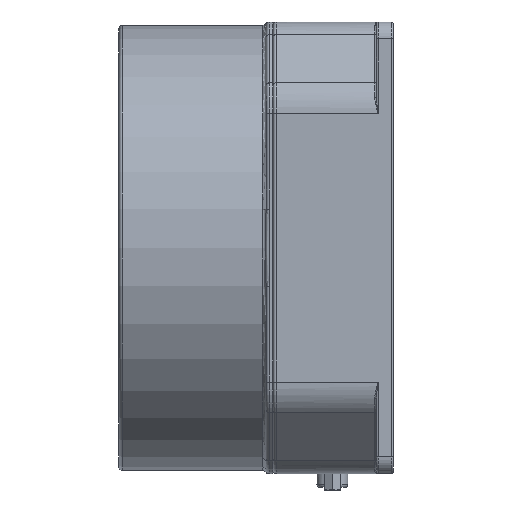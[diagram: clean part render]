
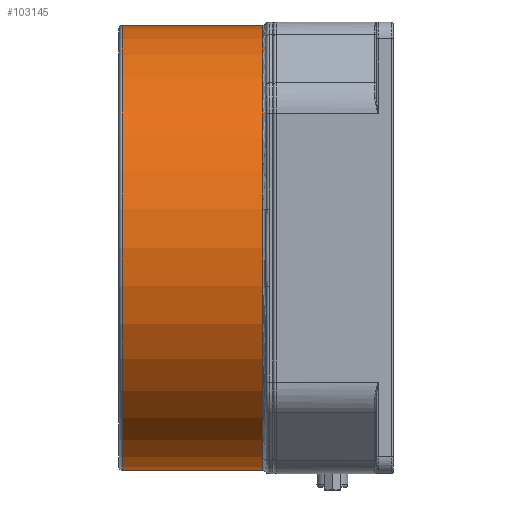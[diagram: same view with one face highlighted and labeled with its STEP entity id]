
A CAD part, left-side view. The second image highlights one B-rep face of the part: STEP entity #103145.
In plain terms, the highlighted cylindrical face has radius 66.5 mm (diameter 133 mm), a partial arc.
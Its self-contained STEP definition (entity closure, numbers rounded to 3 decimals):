
#702 = EDGE_CURVE ( 'NONE', #43727, #125287, #40494, .T. ) ;
#4396 = EDGE_CURVE ( 'NONE', #125287, #51770, #36609, .T. ) ;
#8836 = CARTESIAN_POINT ( 'NONE',  ( 0., 81., 0. ) ) ;
#12412 = DIRECTION ( 'NONE',  ( 0., 0., -1. ) ) ;
#14341 = ORIENTED_EDGE ( 'NONE', *, *, #116187, .F. ) ;
#32389 = CARTESIAN_POINT ( 'NONE',  ( 0., 81., -66.5 ) ) ;
#34900 = DIRECTION ( 'NONE',  ( 0., 0., 1. ) ) ;
#35388 = AXIS2_PLACEMENT_3D ( 'NONE', #117427, #61418, #12412 ) ;
#35874 = ORIENTED_EDGE ( 'NONE', *, *, #128403, .T. ) ;
#36609 = LINE ( 'NONE', #47386, #121636 ) ;
#37689 = CYLINDRICAL_SURFACE ( 'NONE', #35388, 66.5 ) ;
#38368 = CARTESIAN_POINT ( 'NONE',  ( 0., 81., 66.5 ) ) ;
#39089 = DIRECTION ( 'NONE',  ( 0., 0., 1. ) ) ;
#40494 = CIRCLE ( 'NONE', #116431, 66.5 ) ;
#43727 = VERTEX_POINT ( 'NONE', #38368 ) ;
#47386 = CARTESIAN_POINT ( 'NONE',  ( 0., 82., -66.5 ) ) ;
#50108 = CARTESIAN_POINT ( 'NONE',  ( 0., 39., 66.5 ) ) ;
#51770 = VERTEX_POINT ( 'NONE', #79158 ) ;
#61418 = DIRECTION ( 'NONE',  ( 0., -1., 0. ) ) ;
#75807 = CARTESIAN_POINT ( 'NONE',  ( 0., 39., 0. ) ) ;
#79158 = CARTESIAN_POINT ( 'NONE',  ( 0., 39., -66.5 ) ) ;
#83855 = CIRCLE ( 'NONE', #125483, 66.5 ) ;
#88055 = VERTEX_POINT ( 'NONE', #50108 ) ;
#93118 = DIRECTION ( 'NONE',  ( 0., -1., 0. ) ) ;
#103145 = ADVANCED_FACE ( 'NONE', ( #142647 ), #37689, .T. ) ;
#103235 = ORIENTED_EDGE ( 'NONE', *, *, #4396, .T. ) ;
#103423 = CARTESIAN_POINT ( 'NONE',  ( 0., 82., 66.5 ) ) ;
#105665 = DIRECTION ( 'NONE',  ( 0., -1., 0. ) ) ;
#116187 = EDGE_CURVE ( 'NONE', #43727, #88055, #138621, .T. ) ;
#116431 = AXIS2_PLACEMENT_3D ( 'NONE', #8836, #93118, #34900 ) ;
#117427 = CARTESIAN_POINT ( 'NONE',  ( 0., 82., 0. ) ) ;
#121636 = VECTOR ( 'NONE', #126330, 1000. ) ;
#122582 = DIRECTION ( 'NONE',  ( 0., 1., 0. ) ) ;
#125287 = VERTEX_POINT ( 'NONE', #32389 ) ;
#125483 = AXIS2_PLACEMENT_3D ( 'NONE', #75807, #122582, #39089 ) ;
#126330 = DIRECTION ( 'NONE',  ( 0., -1., 0. ) ) ;
#126986 = EDGE_LOOP ( 'NONE', ( #14341, #128961, #103235, #35874 ) ) ;
#128403 = EDGE_CURVE ( 'NONE', #51770, #88055, #83855, .T. ) ;
#128961 = ORIENTED_EDGE ( 'NONE', *, *, #702, .T. ) ;
#138621 = LINE ( 'NONE', #103423, #148432 ) ;
#142647 = FACE_OUTER_BOUND ( 'NONE', #126986, .T. ) ;
#148432 = VECTOR ( 'NONE', #105665, 1000. ) ;
